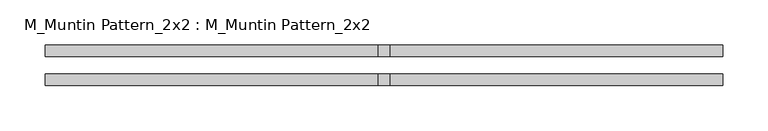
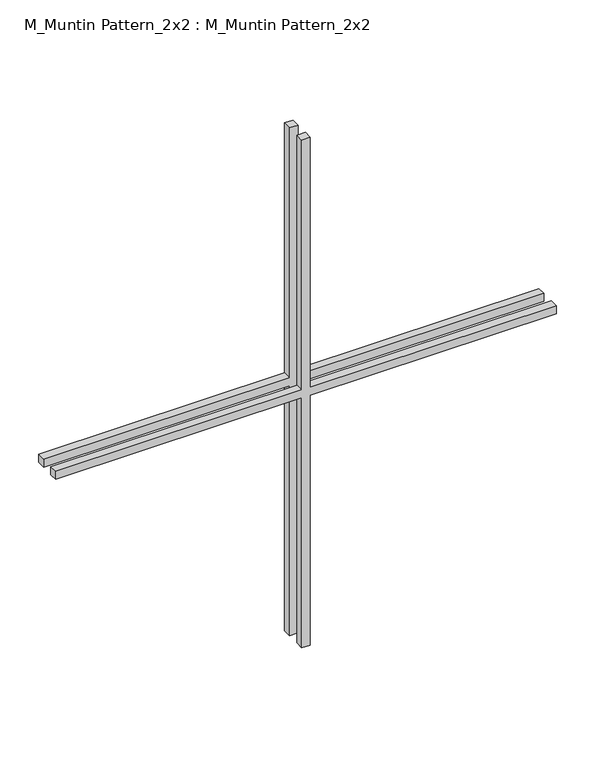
"""IFC4 building model written with IfcOpenShell, lengths in millimetres: proxy geometry, M_Muntin Pattern_2x2 : M_Muntin Pattern_2x2."""

from ifc_helpers import new_model, si_unit, frame, origin, place, context, project, spatial, polyline, outline, extrude, source, transform, mapped, element, save


def m_muntin_pattern_2x2_m_muntin_pattern_2x2_eda20b33(model_context):
    return source(origin(), model_context, "Body", "SweptSolid", [
        extrude(outline(polyline([(407.1375, -6.35), (407.1375, -373.8), (394.4375, -373.8), (394.4375, -6.35), (0.0, -6.35), (0.0, 6.35), (394.4375, 6.35), (394.4375, 373.8), (407.1375, 373.8), (407.1375, 6.35), (801.575, 6.35), (801.575, -6.35), (407.1375, -6.35)])), frame((0.0, 9.525, 0.0), z_axis=(0.0, 1.0, 0.0), x_axis=(0.0, 0.0, 1.0)), (0.0, 0.0, 1.0), 12.7),
        extrude(outline(polyline([(407.1375, -6.35), (407.1375, -373.8), (394.4375, -373.8), (394.4375, -6.35), (0.0, -6.35), (0.0, 6.35), (394.4375, 6.35), (394.4375, 373.8), (407.1375, 373.8), (407.1375, 6.35), (801.575, 6.35), (801.575, -6.35), (407.1375, -6.35)])), frame((0.0, -22.225, 0.0), z_axis=(0.0, 1.0, 0.0), x_axis=(0.0, 0.0, 1.0)), (0.0, 0.0, 1.0), 12.7),
    ])


if __name__ == "__main__":
    model = new_model("IFC4")
    model_context = context("Model", 3, world=origin())
    ifc_project = project(units=[si_unit("LENGTHUNIT", "METRE", prefix="MILLI")], contexts=[model_context])
    site = spatial("IfcSite", under=ifc_project)
    building = spatial("IfcBuilding", under=site)
    placement = place(None, origin())
    m_muntin_pattern_2x2_m_muntin_pattern_2x2_shape = m_muntin_pattern_2x2_m_muntin_pattern_2x2_eda20b33(model_context)
    element("IfcBuildingElementProxy", 1, Name="M_Muntin Pattern_2x2 : M_Muntin Pattern_2x2", ObjectType="M_Muntin Pattern_2x2 : M_Muntin Pattern_2x2", at=placement, inside=building, context=model_context, shape_type="MappedRepresentation", body=[
        mapped(m_muntin_pattern_2x2_m_muntin_pattern_2x2_shape, transform((0.0, 0.0, 0.0), x_axis=(1.0, 0.0, 0.0), y_axis=(0.0, 1.0, 0.0), z_axis=(0.0, 0.0, 1.0))),
    ])
    save(model, "model.ifc")
